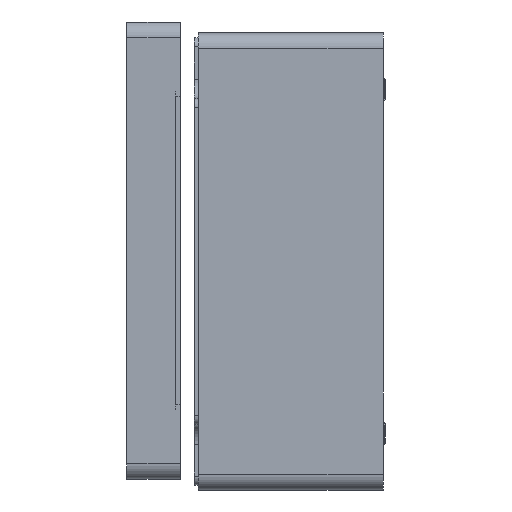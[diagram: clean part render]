
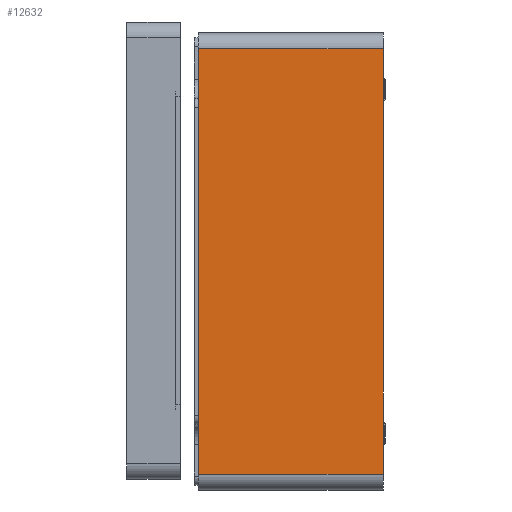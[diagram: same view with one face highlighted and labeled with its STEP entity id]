
A CAD part, left-side view. The second image highlights one B-rep face of the part: STEP entity #12632.
In plain terms, the highlighted planar face has unit normal (-1, 0, 0).
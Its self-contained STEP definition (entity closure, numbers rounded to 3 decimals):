
#2364 = ORIENTED_EDGE ( 'NONE', *, *, #17584, .T. ) ;
#3490 = LINE ( 'NONE', #12009, #25998 ) ;
#5008 = DIRECTION ( 'NONE',  ( 0., 0., 1. ) ) ;
#5763 = EDGE_CURVE ( 'NONE', #25141, #8796, #6259, .T. ) ;
#6259 = LINE ( 'NONE', #8522, #14671 ) ;
#6391 = ORIENTED_EDGE ( 'NONE', *, *, #13822, .F. ) ;
#6418 = VERTEX_POINT ( 'NONE', #19404 ) ;
#8180 = VECTOR ( 'NONE', #23056, 1000. ) ;
#8522 = CARTESIAN_POINT ( 'NONE',  ( -165., 93., 107. ) ) ;
#8796 = VERTEX_POINT ( 'NONE', #15273 ) ;
#8968 = CARTESIAN_POINT ( 'NONE',  ( -165., 0., -115. ) ) ;
#11378 = LINE ( 'NONE', #8968, #20865 ) ;
#12009 = CARTESIAN_POINT ( 'NONE',  ( -165., 93., -107. ) ) ;
#12632 = ADVANCED_FACE ( 'NONE', ( #19059 ), #16930, .F. ) ;
#12812 = DIRECTION ( 'NONE',  ( 0., 1., 0. ) ) ;
#13822 = EDGE_CURVE ( 'NONE', #6418, #8796, #27621, .T. ) ;
#14671 = VECTOR ( 'NONE', #12812, 1000. ) ;
#15273 = CARTESIAN_POINT ( 'NONE',  ( -165., 93., 107. ) ) ;
#16267 = EDGE_LOOP ( 'NONE', ( #20952, #24393, #6391, #2364 ) ) ;
#16642 = CARTESIAN_POINT ( 'NONE',  ( -165., 93., -115. ) ) ;
#16777 = DIRECTION ( 'NONE',  ( 0., 0., -1. ) ) ;
#16930 = PLANE ( 'NONE',  #26797 ) ;
#16959 = VERTEX_POINT ( 'NONE', #18814 ) ;
#17584 = EDGE_CURVE ( 'NONE', #6418, #16959, #3490, .T. ) ;
#18285 = DIRECTION ( 'NONE',  ( 0., -1., 0. ) ) ;
#18786 = CARTESIAN_POINT ( 'NONE',  ( -165., 93., -115. ) ) ;
#18814 = CARTESIAN_POINT ( 'NONE',  ( -165., 0., -107. ) ) ;
#19059 = FACE_OUTER_BOUND ( 'NONE', #16267, .T. ) ;
#19404 = CARTESIAN_POINT ( 'NONE',  ( -165., 93., -107. ) ) ;
#20865 = VECTOR ( 'NONE', #5008, 1000. ) ;
#20952 = ORIENTED_EDGE ( 'NONE', *, *, #24572, .T. ) ;
#23056 = DIRECTION ( 'NONE',  ( 0., 0., 1. ) ) ;
#24393 = ORIENTED_EDGE ( 'NONE', *, *, #5763, .T. ) ;
#24572 = EDGE_CURVE ( 'NONE', #16959, #25141, #11378, .T. ) ;
#25141 = VERTEX_POINT ( 'NONE', #27749 ) ;
#25215 = DIRECTION ( 'NONE',  ( 1., 0., 0. ) ) ;
#25998 = VECTOR ( 'NONE', #18285, 1000. ) ;
#26797 = AXIS2_PLACEMENT_3D ( 'NONE', #18786, #25215, #16777 ) ;
#27621 = LINE ( 'NONE', #16642, #8180 ) ;
#27749 = CARTESIAN_POINT ( 'NONE',  ( -165., 0., 107. ) ) ;
